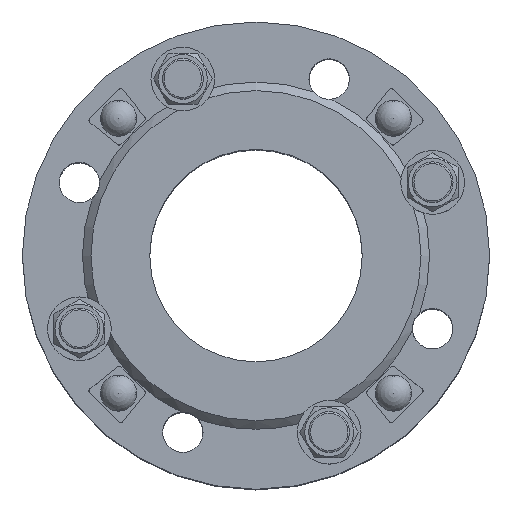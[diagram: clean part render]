
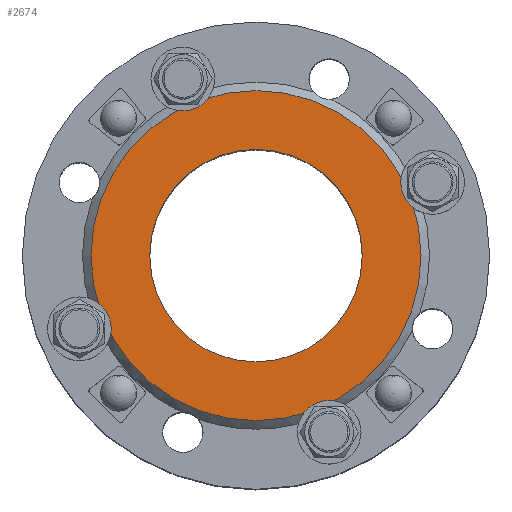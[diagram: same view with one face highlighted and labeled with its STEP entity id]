
A CAD part, top view. The second image highlights one B-rep face of the part: STEP entity #2674.
In plain terms, the highlighted planar face has unit normal (0, 0, 1) as drawn and (0, 0, -1) by its records, which use the part's own axes.
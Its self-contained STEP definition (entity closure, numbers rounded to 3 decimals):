
#2674=ADVANCED_FACE('',(#3899,#3901),#3903,.F.);
#3899=FACE_BOUND('',#3900,.T.);
#3900=EDGE_LOOP('',(#5651));
#3901=FACE_BOUND('',#3902,.T.);
#3902=EDGE_LOOP('',(#5652));
#3903=PLANE('',#3904);
#3904=AXIS2_PLACEMENT_3D('',#3905,#3906,#3907);
#3905=CARTESIAN_POINT('',(0.,0.,0.));
#3906=DIRECTION('',(0.,0.,1.));
#3907=DIRECTION('',(-1.,0.,0.));
#5651=ORIENTED_EDGE('',*,*,#6301,.F.);
#5652=ORIENTED_EDGE('',*,*,#6367,.T.);
#6301=EDGE_CURVE('',#7084,#7084,#7085,.T.);
#6367=EDGE_CURVE('',#7184,#7184,#7185,.T.);
#7084=VERTEX_POINT('',#12606);
#7085=CIRCLE('',#12607,77.7);
#7184=VERTEX_POINT('',#12856);
#7185=CIRCLE('',#12857,50.);
#12606=CARTESIAN_POINT('',(-77.7,0.,0.));
#12607=AXIS2_PLACEMENT_3D('',#12608,#12609,#12610);
#12608=CARTESIAN_POINT('',(0.,0.,0.));
#12609=DIRECTION('',(0.,0.,1.));
#12610=DIRECTION('',(-1.,0.,0.));
#12856=CARTESIAN_POINT('',(-50.,0.,0.));
#12857=AXIS2_PLACEMENT_3D('',#12858,#12859,#12860);
#12858=CARTESIAN_POINT('',(0.,0.,0.));
#12859=DIRECTION('',(0.,0.,1.));
#12860=DIRECTION('',(-1.,0.,0.));
